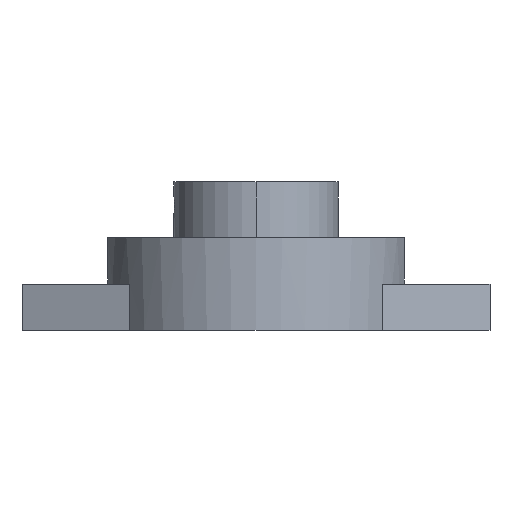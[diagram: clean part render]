
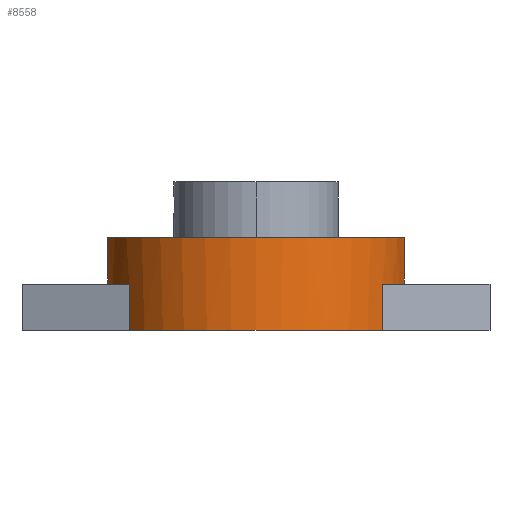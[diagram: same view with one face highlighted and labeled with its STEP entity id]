
A CAD part, left-side view. The second image highlights one B-rep face of the part: STEP entity #8558.
In plain terms, the highlighted cylindrical face has radius 23 mm (diameter 46 mm), a partial arc.
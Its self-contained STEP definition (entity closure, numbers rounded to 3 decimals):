
#411 = VERTEX_POINT ( 'NONE', #600 ) ;
#528 = EDGE_CURVE ( 'NONE', #14773, #8384, #13338, .T. ) ;
#600 = CARTESIAN_POINT ( 'NONE',  ( -12.57, -19.261, 7. ) ) ;
#608 = AXIS2_PLACEMENT_3D ( 'NONE', #1450, #6443, #8683 ) ;
#822 = CARTESIAN_POINT ( 'NONE',  ( 0., 0., 7. ) ) ;
#888 = CARTESIAN_POINT ( 'NONE',  ( 0., 0., 14. ) ) ;
#1450 = CARTESIAN_POINT ( 'NONE',  ( 0., 0., 7. ) ) ;
#1816 = DIRECTION ( 'NONE',  ( 0., -1., 0. ) ) ;
#1825 = DIRECTION ( 'NONE',  ( 0., 0., -1. ) ) ;
#1845 = CARTESIAN_POINT ( 'NONE',  ( 0., 0., 7. ) ) ;
#2070 = VERTEX_POINT ( 'NONE', #14333 ) ;
#2255 = DIRECTION ( 'NONE',  ( 0., 0., -1. ) ) ;
#2502 = EDGE_CURVE ( 'NONE', #2070, #411, #4037, .T. ) ;
#3069 = VECTOR ( 'NONE', #5472, 1000. ) ;
#3220 = DIRECTION ( 'NONE',  ( 0., -1., 0. ) ) ;
#3482 = CARTESIAN_POINT ( 'NONE',  ( -12.57, -19.261, 0. ) ) ;
#3861 = CARTESIAN_POINT ( 'NONE',  ( -12.57, 19.261, 7. ) ) ;
#3982 = ORIENTED_EDGE ( 'NONE', *, *, #10948, .F. ) ;
#4037 = CIRCLE ( 'NONE', #7871, 23. ) ;
#4190 = CIRCLE ( 'NONE', #608, 23. ) ;
#4292 = VERTEX_POINT ( 'NONE', #12468 ) ;
#4669 = LINE ( 'NONE', #9561, #6072 ) ;
#5107 = ORIENTED_EDGE ( 'NONE', *, *, #528, .F. ) ;
#5396 = FACE_OUTER_BOUND ( 'NONE', #13612, .T. ) ;
#5472 = DIRECTION ( 'NONE',  ( 0., 0., -1. ) ) ;
#5505 = CARTESIAN_POINT ( 'NONE',  ( -12.57, 19.261, 3.5 ) ) ;
#5852 = EDGE_CURVE ( 'NONE', #8384, #4292, #4190, .T. ) ;
#6072 = VECTOR ( 'NONE', #12055, 1000. ) ;
#6391 = CARTESIAN_POINT ( 'NONE',  ( -12.57, 19.261, 0. ) ) ;
#6402 = VERTEX_POINT ( 'NONE', #7835 ) ;
#6443 = DIRECTION ( 'NONE',  ( 0., 0., -1. ) ) ;
#7116 = EDGE_CURVE ( 'NONE', #411, #12105, #12838, .T. ) ;
#7406 = CIRCLE ( 'NONE', #10991, 23. ) ;
#7791 = ORIENTED_EDGE ( 'NONE', *, *, #5852, .F. ) ;
#7797 = CARTESIAN_POINT ( 'NONE',  ( -4.671, 22.521, 10.5 ) ) ;
#7835 = CARTESIAN_POINT ( 'NONE',  ( -4.671, 22.521, 14. ) ) ;
#7871 = AXIS2_PLACEMENT_3D ( 'NONE', #822, #2255, #9723 ) ;
#8328 = VERTEX_POINT ( 'NONE', #14549 ) ;
#8384 = VERTEX_POINT ( 'NONE', #3861 ) ;
#8397 = EDGE_CURVE ( 'NONE', #6402, #4292, #10438, .T. ) ;
#8558 = ADVANCED_FACE ( 'NONE', ( #5396 ), #10287, .T. ) ;
#8683 = DIRECTION ( 'NONE',  ( 0., -1., 0. ) ) ;
#8944 = AXIS2_PLACEMENT_3D ( 'NONE', #888, #14752, #3220 ) ;
#9010 = VECTOR ( 'NONE', #11604, 1000. ) ;
#9076 = DIRECTION ( 'NONE',  ( 0., 0., -1. ) ) ;
#9463 = ORIENTED_EDGE ( 'NONE', *, *, #8397, .T. ) ;
#9561 = CARTESIAN_POINT ( 'NONE',  ( -4.671, -22.521, 10.5 ) ) ;
#9723 = DIRECTION ( 'NONE',  ( 0., -1., 0. ) ) ;
#10287 = CYLINDRICAL_SURFACE ( 'NONE', #14867, 23. ) ;
#10438 = LINE ( 'NONE', #7797, #3069 ) ;
#10654 = ORIENTED_EDGE ( 'NONE', *, *, #14285, .T. ) ;
#10948 = EDGE_CURVE ( 'NONE', #6402, #8328, #12529, .T. ) ;
#10991 = AXIS2_PLACEMENT_3D ( 'NONE', #15316, #11549, #1816 ) ;
#11204 = EDGE_CURVE ( 'NONE', #12105, #14773, #7406, .T. ) ;
#11457 = ORIENTED_EDGE ( 'NONE', *, *, #2502, .F. ) ;
#11549 = DIRECTION ( 'NONE',  ( 0., 0., -1. ) ) ;
#11604 = DIRECTION ( 'NONE',  ( 0., 0., 1. ) ) ;
#12055 = DIRECTION ( 'NONE',  ( 0., 0., 1. ) ) ;
#12105 = VERTEX_POINT ( 'NONE', #3482 ) ;
#12468 = CARTESIAN_POINT ( 'NONE',  ( -4.671, 22.521, 7. ) ) ;
#12529 = CIRCLE ( 'NONE', #8944, 23. ) ;
#12838 = LINE ( 'NONE', #13956, #14406 ) ;
#13338 = LINE ( 'NONE', #5505, #9010 ) ;
#13612 = EDGE_LOOP ( 'NONE', ( #9463, #7791, #5107, #15297, #15200, #11457, #10654, #3982 ) ) ;
#13956 = CARTESIAN_POINT ( 'NONE',  ( -12.57, -19.261, 3.5 ) ) ;
#13973 = DIRECTION ( 'NONE',  ( 0., -1., 0. ) ) ;
#14285 = EDGE_CURVE ( 'NONE', #2070, #8328, #4669, .T. ) ;
#14333 = CARTESIAN_POINT ( 'NONE',  ( -4.671, -22.521, 7. ) ) ;
#14406 = VECTOR ( 'NONE', #1825, 1000. ) ;
#14549 = CARTESIAN_POINT ( 'NONE',  ( -4.671, -22.521, 14. ) ) ;
#14752 = DIRECTION ( 'NONE',  ( 0., 0., 1. ) ) ;
#14773 = VERTEX_POINT ( 'NONE', #6391 ) ;
#14867 = AXIS2_PLACEMENT_3D ( 'NONE', #1845, #9076, #13973 ) ;
#15200 = ORIENTED_EDGE ( 'NONE', *, *, #7116, .F. ) ;
#15297 = ORIENTED_EDGE ( 'NONE', *, *, #11204, .F. ) ;
#15316 = CARTESIAN_POINT ( 'NONE',  ( 0., 0., 0. ) ) ;
